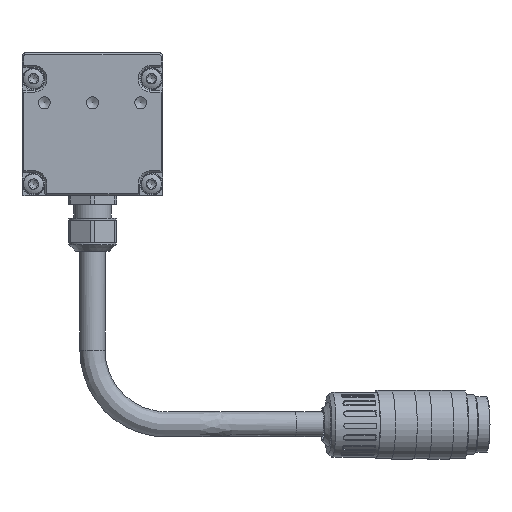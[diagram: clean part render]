
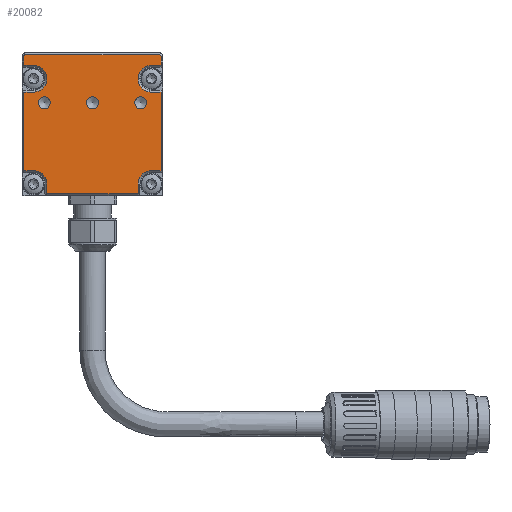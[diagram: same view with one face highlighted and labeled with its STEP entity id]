
A CAD part, left-side view. The second image highlights one B-rep face of the part: STEP entity #20082.
In plain terms, the highlighted planar face has unit normal (-1, 0, 0).
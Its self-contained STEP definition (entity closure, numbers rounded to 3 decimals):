
#880=LINE('',#27913,#1882);
#882=LINE('',#27917,#1884);
#886=LINE('',#27925,#1888);
#889=LINE('',#27931,#1891);
#891=LINE('',#27936,#1893);
#895=LINE('',#27944,#1897);
#897=LINE('',#27948,#1899);
#901=LINE('',#27957,#1903);
#903=LINE('',#27962,#1905);
#906=LINE('',#27970,#1908);
#909=LINE('',#27976,#1911);
#912=LINE('',#27984,#1914);
#916=LINE('',#27992,#1918);
#919=LINE('',#27999,#1921);
#1882=VECTOR('',#23214,1000.);
#1884=VECTOR('',#23218,1000.);
#1888=VECTOR('',#23224,1000.);
#1891=VECTOR('',#23229,1000.);
#1893=VECTOR('',#23235,1000.);
#1897=VECTOR('',#23241,1000.);
#1899=VECTOR('',#23247,1000.);
#1903=VECTOR('',#23257,1000.);
#1905=VECTOR('',#23265,1000.);
#1908=VECTOR('',#23274,1000.);
#1911=VECTOR('',#23283,1000.);
#1914=VECTOR('',#23292,1000.);
#1918=VECTOR('',#23302,1000.);
#1921=VECTOR('',#23311,1000.);
#2682=PLANE('',#21147);
#3923=ORIENTED_EDGE('',*,*,#7674,.T.);
#3924=ORIENTED_EDGE('',*,*,#7675,.T.);
#3925=ORIENTED_EDGE('',*,*,#7676,.T.);
#3926=ORIENTED_EDGE('',*,*,#7648,.T.);
#3927=ORIENTED_EDGE('',*,*,#7645,.T.);
#3928=ORIENTED_EDGE('',*,*,#7639,.T.);
#3929=ORIENTED_EDGE('',*,*,#7656,.T.);
#3930=ORIENTED_EDGE('',*,*,#7654,.T.);
#3931=ORIENTED_EDGE('',*,*,#7652,.T.);
#3932=ORIENTED_EDGE('',*,*,#7630,.T.);
#3933=ORIENTED_EDGE('',*,*,#7663,.T.);
#3934=ORIENTED_EDGE('',*,*,#7661,.T.);
#3935=ORIENTED_EDGE('',*,*,#7659,.T.);
#3936=ORIENTED_EDGE('',*,*,#7628,.T.);
#3937=ORIENTED_EDGE('',*,*,#7673,.F.);
#3938=ORIENTED_EDGE('',*,*,#7643,.T.);
#3939=ORIENTED_EDGE('',*,*,#7672,.F.);
#3940=ORIENTED_EDGE('',*,*,#7637,.T.);
#3941=ORIENTED_EDGE('',*,*,#7671,.T.);
#3942=ORIENTED_EDGE('',*,*,#7669,.T.);
#3943=ORIENTED_EDGE('',*,*,#7667,.T.);
#3944=ORIENTED_EDGE('',*,*,#7634,.T.);
#3945=ORIENTED_EDGE('',*,*,#7650,.T.);
#7628=EDGE_CURVE('',#9566,#9567,#880,.T.);
#7630=EDGE_CURVE('',#9569,#9568,#882,.T.);
#7634=EDGE_CURVE('',#9570,#9571,#886,.T.);
#7637=EDGE_CURVE('',#9572,#9573,#889,.T.);
#7639=EDGE_CURVE('',#9575,#9574,#891,.T.);
#7643=EDGE_CURVE('',#9576,#9577,#895,.T.);
#7645=EDGE_CURVE('',#9578,#9575,#897,.T.);
#7648=EDGE_CURVE('',#9579,#9578,#10697,.T.);
#7650=EDGE_CURVE('',#9571,#9579,#901,.T.);
#7652=EDGE_CURVE('',#9580,#9569,#903,.T.);
#7654=EDGE_CURVE('',#9581,#9580,#10698,.T.);
#7656=EDGE_CURVE('',#9574,#9581,#906,.T.);
#7659=EDGE_CURVE('',#9582,#9566,#909,.T.);
#7661=EDGE_CURVE('',#9583,#9582,#10699,.T.);
#7663=EDGE_CURVE('',#9568,#9583,#912,.T.);
#7667=EDGE_CURVE('',#9584,#9570,#916,.T.);
#7669=EDGE_CURVE('',#9585,#9584,#10700,.T.);
#7671=EDGE_CURVE('',#9573,#9585,#919,.T.);
#7672=EDGE_CURVE('',#9572,#9577,#10701,.T.);
#7673=EDGE_CURVE('',#9576,#9567,#10702,.T.);
#7674=EDGE_CURVE('',#9586,#9586,#10703,.T.);
#7675=EDGE_CURVE('',#9587,#9587,#10704,.T.);
#7676=EDGE_CURVE('',#9588,#9588,#10705,.T.);
#9566=VERTEX_POINT('',#27910);
#9567=VERTEX_POINT('',#27912);
#9568=VERTEX_POINT('',#27916);
#9569=VERTEX_POINT('',#27918);
#9570=VERTEX_POINT('',#27922);
#9571=VERTEX_POINT('',#27924);
#9572=VERTEX_POINT('',#27928);
#9573=VERTEX_POINT('',#27930);
#9574=VERTEX_POINT('',#27935);
#9575=VERTEX_POINT('',#27937);
#9576=VERTEX_POINT('',#27941);
#9577=VERTEX_POINT('',#27943);
#9578=VERTEX_POINT('',#27949);
#9579=VERTEX_POINT('',#27953);
#9580=VERTEX_POINT('',#27963);
#9581=VERTEX_POINT('',#27967);
#9582=VERTEX_POINT('',#27977);
#9583=VERTEX_POINT('',#27981);
#9584=VERTEX_POINT('',#27991);
#9585=VERTEX_POINT('',#27995);
#9586=VERTEX_POINT('',#28007);
#9587=VERTEX_POINT('',#28009);
#9588=VERTEX_POINT('',#28011);
#10697=CIRCLE('',#21122,3.6);
#10698=CIRCLE('',#21128,3.6);
#10699=CIRCLE('',#21134,3.6);
#10700=CIRCLE('',#21140,3.6);
#10701=CIRCLE('',#21144,0.5);
#10702=CIRCLE('',#21146,0.5);
#10703=CIRCLE('',#21148,1.621);
#10704=CIRCLE('',#21149,1.621);
#10705=CIRCLE('',#21150,1.621);
#11388=EDGE_LOOP('',(#3923));
#11389=EDGE_LOOP('',(#3924));
#11390=EDGE_LOOP('',(#3925));
#11391=EDGE_LOOP('',(#3926,#3927,#3928,#3929,#3930,#3931,#3932,#3933,#3934,
#3935,#3936,#3937,#3938,#3939,#3940,#3941,#3942,#3943,#3944,#3945));
#12478=FACE_BOUND('',#11388,.T.);
#12479=FACE_BOUND('',#11389,.T.);
#12480=FACE_BOUND('',#11390,.T.);
#12481=FACE_BOUND('',#11391,.T.);
#20082=ADVANCED_FACE('',(#12478,#12479,#12480,#12481),#2682,.F.);
#21122=AXIS2_PLACEMENT_3D('',#27954,#23252,#23253);
#21128=AXIS2_PLACEMENT_3D('',#27966,#23269,#23270);
#21134=AXIS2_PLACEMENT_3D('',#27980,#23287,#23288);
#21140=AXIS2_PLACEMENT_3D('',#27996,#23306,#23307);
#21144=AXIS2_PLACEMENT_3D('',#28002,#23316,#23317);
#21146=AXIS2_PLACEMENT_3D('',#28004,#23320,#23321);
#21147=AXIS2_PLACEMENT_3D('',#28005,#23322,#23323);
#21148=AXIS2_PLACEMENT_3D('',#28006,#23324,#23325);
#21149=AXIS2_PLACEMENT_3D('',#28008,#23326,#23327);
#21150=AXIS2_PLACEMENT_3D('',#28010,#23328,#23329);
#23214=DIRECTION('',(0.,0.,1.));
#23218=DIRECTION('',(0.,0.,1.));
#23224=DIRECTION('',(0.,0.,-1.));
#23229=DIRECTION('',(0.,0.,-1.));
#23235=DIRECTION('',(0.,-1.,0.));
#23241=DIRECTION('',(0.,1.,0.));
#23247=DIRECTION('',(0.,0.,-1.));
#23252=DIRECTION('',(1.,0.,0.));
#23253=DIRECTION('',(0.,1.,0.));
#23257=DIRECTION('',(0.,-1.,0.));
#23265=DIRECTION('',(0.,-1.,0.));
#23269=DIRECTION('',(1.,0.,0.));
#23270=DIRECTION('',(0.,1.,0.));
#23274=DIRECTION('',(0.,0.,1.));
#23283=DIRECTION('',(0.,-1.,0.));
#23287=DIRECTION('',(1.,0.,0.));
#23288=DIRECTION('',(0.,1.,0.));
#23292=DIRECTION('',(0.,1.,0.));
#23302=DIRECTION('',(0.,1.,0.));
#23306=DIRECTION('',(1.,0.,0.));
#23307=DIRECTION('',(0.,1.,0.));
#23311=DIRECTION('',(0.,-1.,0.));
#23316=DIRECTION('',(1.,0.,0.));
#23317=DIRECTION('',(0.,1.,0.));
#23320=DIRECTION('',(1.,0.,0.));
#23321=DIRECTION('',(0.,1.,0.));
#23322=DIRECTION('',(1.,0.,0.));
#23323=DIRECTION('',(0.,1.,0.));
#23324=DIRECTION('',(1.,0.,0.));
#23325=DIRECTION('',(0.,-1.,0.));
#23326=DIRECTION('',(1.,0.,0.));
#23327=DIRECTION('',(0.,-1.,0.));
#23328=DIRECTION('',(1.,0.,0.));
#23329=DIRECTION('',(0.,-1.,0.));
#27910=CARTESIAN_POINT('',(-414.998,-18.5,35.119));
#27912=CARTESIAN_POINT('',(-414.998,-18.5,37.519));
#27913=CARTESIAN_POINT('',(-414.998,-18.5,0.019));
#27916=CARTESIAN_POINT('',(-414.998,-18.5,27.919));
#27917=CARTESIAN_POINT('',(-414.998,-18.5,0.019));
#27918=CARTESIAN_POINT('',(-414.998,-18.5,6.719));
#27922=CARTESIAN_POINT('',(-414.998,18.5,27.919));
#27924=CARTESIAN_POINT('',(-414.998,18.5,6.719));
#27925=CARTESIAN_POINT('',(-414.998,18.5,0.019));
#27928=CARTESIAN_POINT('',(-414.998,18.5,37.519));
#27930=CARTESIAN_POINT('',(-414.998,18.5,35.119));
#27931=CARTESIAN_POINT('',(-414.998,18.5,0.019));
#27935=CARTESIAN_POINT('',(-414.998,-12.3,0.519));
#27936=CARTESIAN_POINT('',(-414.998,-12.3,0.519));
#27937=CARTESIAN_POINT('',(-414.998,12.3,0.519));
#27941=CARTESIAN_POINT('',(-414.998,-18.,38.019));
#27943=CARTESIAN_POINT('',(-414.998,18.,38.019));
#27944=CARTESIAN_POINT('',(-414.998,-19.,38.019));
#27948=CARTESIAN_POINT('',(-414.998,12.3,0.019));
#27949=CARTESIAN_POINT('',(-414.998,12.3,3.119));
#27953=CARTESIAN_POINT('',(-414.998,15.9,6.719));
#27954=CARTESIAN_POINT('',(-414.998,15.9,3.119));
#27957=CARTESIAN_POINT('',(-414.998,-19.,6.719));
#27962=CARTESIAN_POINT('',(-414.998,-19.,6.719));
#27963=CARTESIAN_POINT('',(-414.998,-15.9,6.719));
#27966=CARTESIAN_POINT('',(-414.998,-15.9,3.119));
#27967=CARTESIAN_POINT('',(-414.998,-12.3,3.119));
#27970=CARTESIAN_POINT('',(-414.998,-12.3,0.019));
#27976=CARTESIAN_POINT('',(-414.998,-19.,35.119));
#27977=CARTESIAN_POINT('',(-414.998,-15.9,35.119));
#27980=CARTESIAN_POINT('',(-414.998,-15.9,31.519));
#27981=CARTESIAN_POINT('',(-414.998,-15.9,27.919));
#27984=CARTESIAN_POINT('',(-414.998,-19.,27.919));
#27991=CARTESIAN_POINT('',(-414.998,15.9,27.919));
#27992=CARTESIAN_POINT('',(-414.998,-19.,27.919));
#27995=CARTESIAN_POINT('',(-414.998,15.9,35.119));
#27996=CARTESIAN_POINT('',(-414.998,15.9,31.519));
#27999=CARTESIAN_POINT('',(-414.998,-19.,35.119));
#28002=CARTESIAN_POINT('',(-414.998,18.,37.519));
#28004=CARTESIAN_POINT('',(-414.998,-18.,37.519));
#28005=CARTESIAN_POINT('',(-414.998,-19.,0.019));
#28006=CARTESIAN_POINT('',(-414.998,13.,25.019));
#28007=CARTESIAN_POINT('',(-414.998,11.379,25.019));
#28008=CARTESIAN_POINT('',(-414.998,0.,25.019));
#28009=CARTESIAN_POINT('',(-414.998,-1.621,25.019));
#28010=CARTESIAN_POINT('',(-414.998,-13.,25.019));
#28011=CARTESIAN_POINT('',(-414.998,-14.621,25.019));
